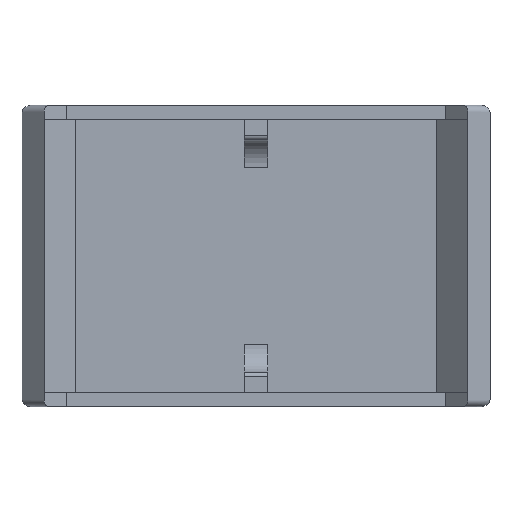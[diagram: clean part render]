
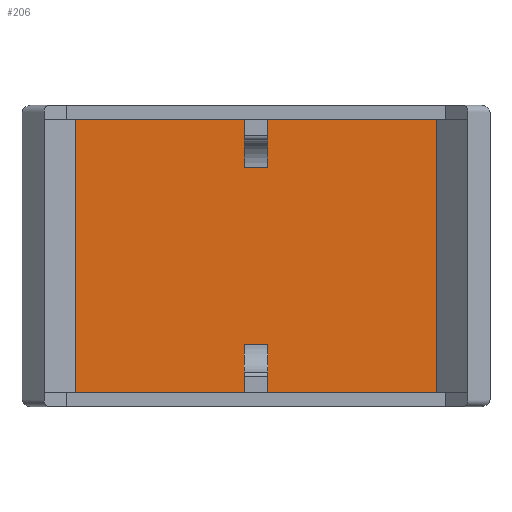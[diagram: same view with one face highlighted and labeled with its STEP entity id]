
A CAD part, front view. The second image highlights one B-rep face of the part: STEP entity #206.
In plain terms, the highlighted planar face has unit normal (0, -1, 0).
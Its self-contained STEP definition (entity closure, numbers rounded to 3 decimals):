
#30 = DIRECTION ( 'NONE',  ( 1., 0., 0. ) ) ;
#48 = CARTESIAN_POINT ( 'NONE',  ( 1.65, 0.5, -19.25 ) ) ;
#79 = VECTOR ( 'NONE', #352, 1000. ) ;
#81 = VERTEX_POINT ( 'NONE', #1144 ) ;
#89 = CARTESIAN_POINT ( 'NONE',  ( 1.65, 0.5, -19.25 ) ) ;
#114 = EDGE_CURVE ( 'NONE', #1240, #316, #1220, .T. ) ;
#145 = VERTEX_POINT ( 'NONE', #1463 ) ;
#163 = EDGE_CURVE ( 'NONE', #555, #81, #1376, .T. ) ;
#166 = VECTOR ( 'NONE', #1137, 1000. ) ;
#174 = CARTESIAN_POINT ( 'NONE',  ( -1.65, 0.5, -19.25 ) ) ;
#192 = LINE ( 'NONE', #1121, #240 ) ;
#197 = VERTEX_POINT ( 'NONE', #334 ) ;
#206 = ADVANCED_FACE ( 'NONE', ( #376 ), #468, .F. ) ;
#213 = VECTOR ( 'NONE', #1244, 1000. ) ;
#216 = VECTOR ( 'NONE', #1221, 1000. ) ;
#218 = EDGE_CURVE ( 'NONE', #81, #1313, #1191, .T. ) ;
#224 = ORIENTED_EDGE ( 'NONE', *, *, #677, .T. ) ;
#240 = VECTOR ( 'NONE', #795, 1000. ) ;
#255 = LINE ( 'NONE', #48, #907 ) ;
#277 = CARTESIAN_POINT ( 'NONE',  ( -1.65, 0.5, -19.25 ) ) ;
#307 = CARTESIAN_POINT ( 'NONE',  ( -25.505, 0.5, -19.25 ) ) ;
#315 = ORIENTED_EDGE ( 'NONE', *, *, #855, .F. ) ;
#316 = VERTEX_POINT ( 'NONE', #800 ) ;
#331 = LINE ( 'NONE', #307, #378 ) ;
#334 = CARTESIAN_POINT ( 'NONE',  ( 1.65, 0.5, 19.25 ) ) ;
#335 = LINE ( 'NONE', #1414, #79 ) ;
#344 = DIRECTION ( 'NONE',  ( -1., 0., 0. ) ) ;
#352 = DIRECTION ( 'NONE',  ( -1., 0., 0. ) ) ;
#376 = FACE_OUTER_BOUND ( 'NONE', #1247, .T. ) ;
#378 = VECTOR ( 'NONE', #944, 1000. ) ;
#393 = CARTESIAN_POINT ( 'NONE',  ( -1.65, 0.5, -12.45 ) ) ;
#412 = LINE ( 'NONE', #428, #1237 ) ;
#428 = CARTESIAN_POINT ( 'NONE',  ( 1.65, 0.5, 19.25 ) ) ;
#435 = ORIENTED_EDGE ( 'NONE', *, *, #775, .T. ) ;
#447 = CARTESIAN_POINT ( 'NONE',  ( 25.505, 0.5, -19.25 ) ) ;
#468 = PLANE ( 'NONE',  #1082 ) ;
#481 = VECTOR ( 'NONE', #713, 1000. ) ;
#523 = LINE ( 'NONE', #174, #213 ) ;
#530 = VERTEX_POINT ( 'NONE', #1201 ) ;
#548 = EDGE_CURVE ( 'NONE', #1087, #1529, #335, .T. ) ;
#555 = VERTEX_POINT ( 'NONE', #970 ) ;
#604 = VERTEX_POINT ( 'NONE', #393 ) ;
#609 = CARTESIAN_POINT ( 'NONE',  ( 25.505, 0.5, 19.25 ) ) ;
#610 = EDGE_CURVE ( 'NONE', #1529, #530, #255, .T. ) ;
#657 = VECTOR ( 'NONE', #30, 1000. ) ;
#677 = EDGE_CURVE ( 'NONE', #1087, #741, #803, .T. ) ;
#713 = DIRECTION ( 'NONE',  ( -1., 0., 0. ) ) ;
#715 = ORIENTED_EDGE ( 'NONE', *, *, #548, .F. ) ;
#723 = LINE ( 'NONE', #1172, #657 ) ;
#737 = ORIENTED_EDGE ( 'NONE', *, *, #610, .F. ) ;
#741 = VERTEX_POINT ( 'NONE', #1460 ) ;
#758 = EDGE_CURVE ( 'NONE', #1313, #145, #1318, .T. ) ;
#770 = ORIENTED_EDGE ( 'NONE', *, *, #924, .T. ) ;
#775 = EDGE_CURVE ( 'NONE', #604, #530, #723, .T. ) ;
#795 = DIRECTION ( 'NONE',  ( -1., 0., 0. ) ) ;
#800 = CARTESIAN_POINT ( 'NONE',  ( -25.505, 0.5, -19.25 ) ) ;
#803 = LINE ( 'NONE', #1208, #216 ) ;
#841 = EDGE_CURVE ( 'NONE', #604, #1240, #523, .T. ) ;
#850 = ORIENTED_EDGE ( 'NONE', *, *, #758, .T. ) ;
#855 = EDGE_CURVE ( 'NONE', #316, #145, #331, .T. ) ;
#907 = VECTOR ( 'NONE', #1489, 1000. ) ;
#916 = CARTESIAN_POINT ( 'NONE',  ( -1.65, 0.5, 19.25 ) ) ;
#924 = EDGE_CURVE ( 'NONE', #197, #555, #412, .T. ) ;
#944 = DIRECTION ( 'NONE',  ( 0., 0., 1. ) ) ;
#947 = ORIENTED_EDGE ( 'NONE', *, *, #163, .T. ) ;
#960 = ORIENTED_EDGE ( 'NONE', *, *, #218, .T. ) ;
#970 = CARTESIAN_POINT ( 'NONE',  ( 1.65, 0.5, 12.45 ) ) ;
#1001 = CARTESIAN_POINT ( 'NONE',  ( 25.505, 0.5, -19.25 ) ) ;
#1017 = DIRECTION ( 'NONE',  ( 0., 1., 0. ) ) ;
#1046 = EDGE_CURVE ( 'NONE', #741, #197, #192, .T. ) ;
#1082 = AXIS2_PLACEMENT_3D ( 'NONE', #447, #1017, #1324 ) ;
#1087 = VERTEX_POINT ( 'NONE', #1001 ) ;
#1117 = VECTOR ( 'NONE', #1279, 1000. ) ;
#1121 = CARTESIAN_POINT ( 'NONE',  ( 25.505, 0.5, 19.25 ) ) ;
#1137 = DIRECTION ( 'NONE',  ( 0., 0., 1. ) ) ;
#1144 = CARTESIAN_POINT ( 'NONE',  ( -1.65, 0.5, 12.45 ) ) ;
#1155 = CARTESIAN_POINT ( 'NONE',  ( 25.505, 0.5, 12.45 ) ) ;
#1172 = CARTESIAN_POINT ( 'NONE',  ( 1.65, 0.5, -12.45 ) ) ;
#1177 = ORIENTED_EDGE ( 'NONE', *, *, #841, .F. ) ;
#1191 = LINE ( 'NONE', #1268, #166 ) ;
#1201 = CARTESIAN_POINT ( 'NONE',  ( 1.65, 0.5, -12.45 ) ) ;
#1208 = CARTESIAN_POINT ( 'NONE',  ( 25.505, 0.5, -19.25 ) ) ;
#1220 = LINE ( 'NONE', #1260, #481 ) ;
#1221 = DIRECTION ( 'NONE',  ( 0., 0., 1. ) ) ;
#1237 = VECTOR ( 'NONE', #1323, 1000. ) ;
#1240 = VERTEX_POINT ( 'NONE', #277 ) ;
#1244 = DIRECTION ( 'NONE',  ( 0., 0., -1. ) ) ;
#1247 = EDGE_LOOP ( 'NONE', ( #947, #960, #850, #315, #1304, #1177, #435, #737, #715, #224, #1526, #770 ) ) ;
#1260 = CARTESIAN_POINT ( 'NONE',  ( 25.505, 0.5, -19.25 ) ) ;
#1268 = CARTESIAN_POINT ( 'NONE',  ( -1.65, 0.5, 19.25 ) ) ;
#1279 = DIRECTION ( 'NONE',  ( -1., 0., 0. ) ) ;
#1304 = ORIENTED_EDGE ( 'NONE', *, *, #114, .F. ) ;
#1313 = VERTEX_POINT ( 'NONE', #916 ) ;
#1318 = LINE ( 'NONE', #609, #1514 ) ;
#1323 = DIRECTION ( 'NONE',  ( 0., 0., -1. ) ) ;
#1324 = DIRECTION ( 'NONE',  ( -1., 0., 0. ) ) ;
#1376 = LINE ( 'NONE', #1155, #1117 ) ;
#1414 = CARTESIAN_POINT ( 'NONE',  ( 25.505, 0.5, -19.25 ) ) ;
#1460 = CARTESIAN_POINT ( 'NONE',  ( 25.505, 0.5, 19.25 ) ) ;
#1463 = CARTESIAN_POINT ( 'NONE',  ( -25.505, 0.5, 19.25 ) ) ;
#1489 = DIRECTION ( 'NONE',  ( 0., 0., 1. ) ) ;
#1514 = VECTOR ( 'NONE', #344, 1000. ) ;
#1526 = ORIENTED_EDGE ( 'NONE', *, *, #1046, .T. ) ;
#1529 = VERTEX_POINT ( 'NONE', #89 ) ;
